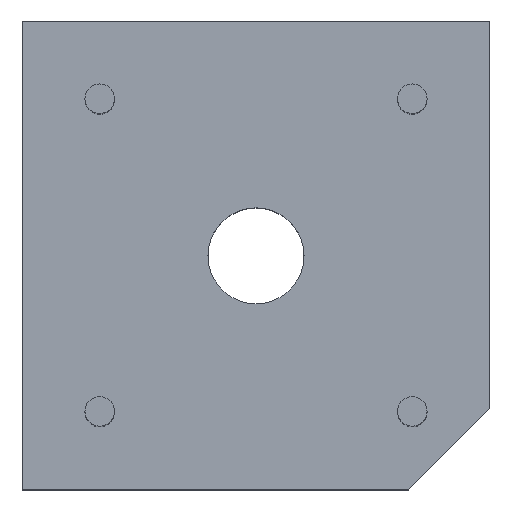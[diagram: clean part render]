
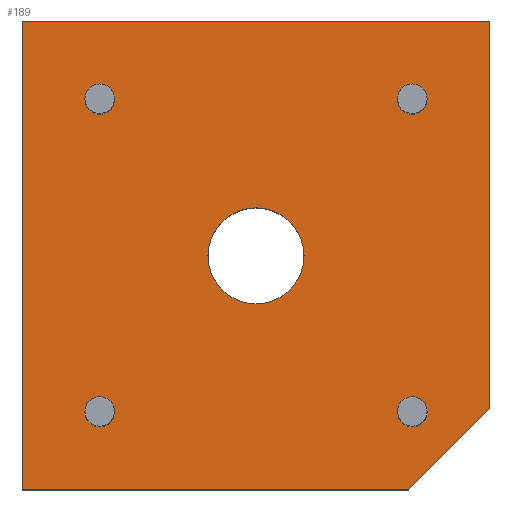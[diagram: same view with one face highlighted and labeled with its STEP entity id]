
A CAD part, top view. The second image highlights one B-rep face of the part: STEP entity #189.
In plain terms, the highlighted planar face has unit normal (0, 0, 1).
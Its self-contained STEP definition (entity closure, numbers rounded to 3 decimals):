
#189=ADVANCED_FACE('',(#254,#255),#209,.T.);
#209=PLANE('',#402);
#224=LINE('',#511,#239);
#225=LINE('',#514,#240);
#226=LINE('',#516,#241);
#227=LINE('',#518,#242);
#228=LINE('',#520,#243);
#239=VECTOR('',#435,1.);
#240=VECTOR('',#436,1.);
#241=VECTOR('',#437,1.);
#242=VECTOR('',#438,1.);
#243=VECTOR('',#439,1.);
#254=FACE_BOUND('',#268,.T.);
#255=FACE_BOUND('',#269,.T.);
#268=EDGE_LOOP('',(#295));
#269=EDGE_LOOP('',(#296,#297,#298,#299,#300));
#295=ORIENTED_EDGE('',*,*,#365,.T.);
#296=ORIENTED_EDGE('',*,*,#366,.F.);
#297=ORIENTED_EDGE('',*,*,#367,.T.);
#298=ORIENTED_EDGE('',*,*,#368,.F.);
#299=ORIENTED_EDGE('',*,*,#369,.F.);
#300=ORIENTED_EDGE('',*,*,#370,.F.);
#345=VERTEX_POINT('',#510);
#346=VERTEX_POINT('',#512);
#347=VERTEX_POINT('',#513);
#348=VERTEX_POINT('',#515);
#349=VERTEX_POINT('',#517);
#350=VERTEX_POINT('',#519);
#365=EDGE_CURVE('',#345,#345,#390,.T.);
#366=EDGE_CURVE('',#346,#347,#224,.T.);
#367=EDGE_CURVE('',#346,#348,#225,.T.);
#368=EDGE_CURVE('',#349,#348,#226,.T.);
#369=EDGE_CURVE('',#350,#349,#227,.T.);
#370=EDGE_CURVE('',#347,#350,#228,.T.);
#390=CIRCLE('',#401,1.95);
#401=AXIS2_PLACEMENT_3D('',#509,#433,#434);
#402=AXIS2_PLACEMENT_3D('',#521,#440,#441);
#433=DIRECTION('',(0.,0.,-1.));
#434=DIRECTION('',(-1.,0.,0.));
#435=DIRECTION('',(-1.,0.,0.));
#436=DIRECTION('',(0.707,0.707,0.));
#437=DIRECTION('',(0.,-1.,0.));
#438=DIRECTION('',(1.,0.,0.));
#439=DIRECTION('',(0.,1.,0.));
#440=DIRECTION('',(0.,0.,1.));
#441=DIRECTION('',(1.,0.,0.));
#509=CARTESIAN_POINT('',(12.96,27.088,6.8));
#510=CARTESIAN_POINT('',(11.01,27.088,6.8));
#511=CARTESIAN_POINT('',(12.96,17.588,6.8));
#512=CARTESIAN_POINT('',(19.16,17.588,6.8));
#513=CARTESIAN_POINT('',(3.46,17.588,6.8));
#514=CARTESIAN_POINT('',(20.81,19.238,6.8));
#515=CARTESIAN_POINT('',(22.46,20.888,6.8));
#516=CARTESIAN_POINT('',(22.46,27.088,6.8));
#517=CARTESIAN_POINT('',(22.46,36.588,6.8));
#518=CARTESIAN_POINT('',(12.96,36.588,6.8));
#519=CARTESIAN_POINT('',(3.46,36.588,6.8));
#520=CARTESIAN_POINT('',(3.46,27.088,6.8));
#521=CARTESIAN_POINT('',(12.96,27.088,6.8));
